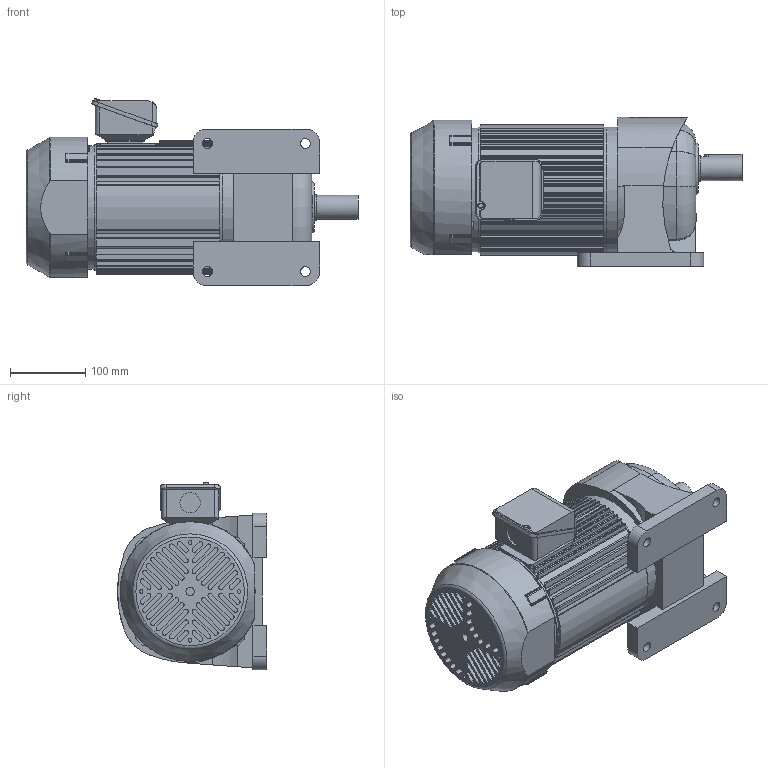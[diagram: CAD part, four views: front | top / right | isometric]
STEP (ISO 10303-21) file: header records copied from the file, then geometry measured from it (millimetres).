
FILE_DESCRIPTION( ( 'STEP AP203' ), ' ' );
FILE_NAME( 'p:/temp/worker_44/3644_3424/app_63_12017032209025304726915260eae72_000000_00_00_000000/format_0/G3L32N5N-IPB150NT.stp', '2017-03-22T08:02:55', ( '' ), ( '' ), ' ', 'PARTsolutions', ' ' );
FILE_SCHEMA( ( 'CONFIG_CONTROL_DESIGN' ) );
Length unit declared in the file: millimetre
Products named in the file (8): G3L32N5N-IPB150NT; _GL32; _SP032E5; HI_T150; HI_1522B; _Brake lead wire; _T-BOX010; _KEY 32
Assembly tree (7 placements, depth 2):
  G3L32N5N-IPB150NT
    _GL32
    _SP032E5
    HI_T150
    HI_1522B
    _Brake lead wire
    _T-BOX010
    _KEY 32
Bounding box: 441 x 198 x 249.02 mm (x, y, z)
Volume: 10201384.9 mm3; surface area: 580982.4 mm2
Topology: 7 solids, 7 shells, 771 faces, 2090 edges, 1386 vertices
Faces by surface type: cylinder 405, plane 348, torus 15, bspline 2, cone 1
Full cylindrical faces by diameter (mm): 2 x4, 4.8 x4, 6.4 x1, 11 x1, 13 x4, 27 x1, 32 x1, 34 x1, 164 x1, 167 x3
Entity records: 25327 total; most frequent: CARTESIAN_POINT 5148, DIRECTION 4334, ORIENTED_EDGE 4102, EDGE_CURVE 2051, AXIS2_PLACEMENT_3D 1581, VERTEX_POINT 1375, LINE 1172, VECTOR 1172
